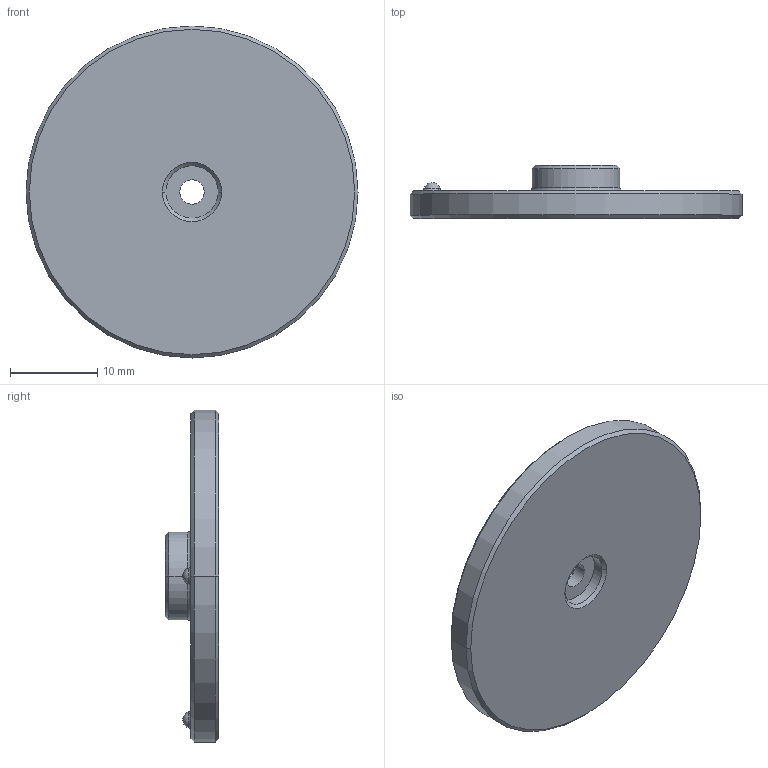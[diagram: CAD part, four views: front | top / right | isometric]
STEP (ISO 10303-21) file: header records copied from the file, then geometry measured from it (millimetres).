
FILE_DESCRIPTION((''),'2;1');
FILE_NAME('SF-1510_002','2016-10-24T',('salvagp'),(''),'CREO PARAMETRIC BY PTC INC, 2016130','CREO PARAMETRIC BY PTC INC, 2016130','');
FILE_SCHEMA(('CONFIG_CONTROL_DESIGN'));
Length unit declared in the file: inch
Products named in the file (1): SF-1510_002
Bounding box: 38.1 x 6.1 x 38.1 mm (x, y, z)
Volume: 3711 mm3; surface area: 2783.6 mm2
Topology: 1 solids, 1 shells, 77 faces, 200 edges, 130 vertices
Faces by surface type: plane 53, cone 8, cylinder 8, torus 6, sphere 2
Entity records: 2378 total; most frequent: CARTESIAN_POINT 407, ORIENTED_EDGE 400, DIRECTION 394, EDGE_CURVE 200, VECTOR 160, LINE 160, VERTEX_POINT 130, AXIS2_PLACEMENT_3D 117
